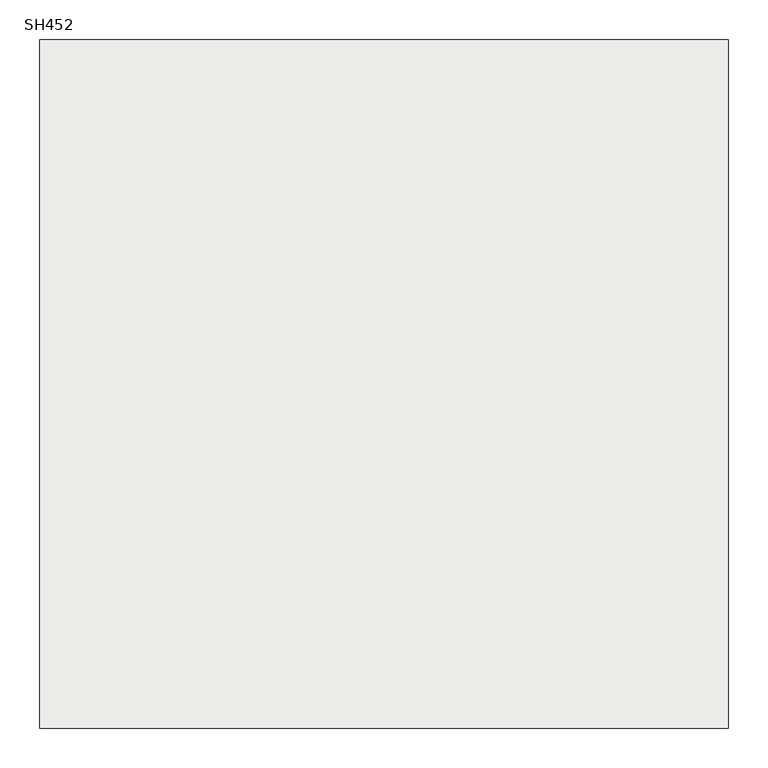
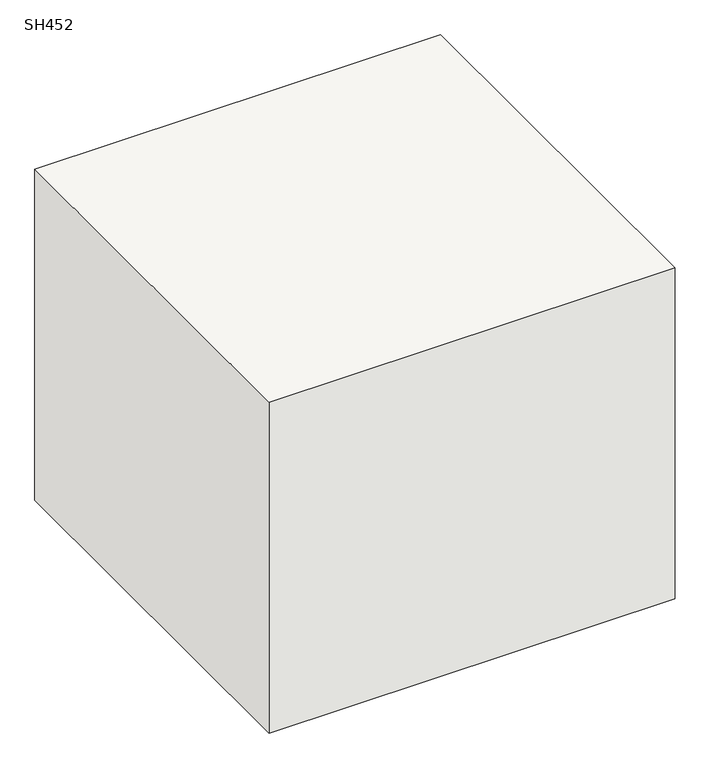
"""IFC4 building model written with IfcOpenShell, lengths in millimetres: slab geometry, 柱形_SH : SH452."""

import ifcopenshell
import ifcopenshell.guid

model = None  # the IFC model being written
_history = None  # IfcOwnerHistory: only IFC2X3 demands one
_inside = {}  # id of a spatial element -> (the spatial element, [elements in it])
_under = {}  # id of a project, library or spatial element -> (it, [spatial elements below it])
_declared = {}  # id of a project -> (the project, [libraries it declares])
_typed = {}  # id of a type object -> (the type object, [elements of that type])
_made_of = {}  # id of a material, layer set ... -> (it, [elements and type objects made of it])


def new_model(schema):
    """Start an empty IFC model of exactly this schema.

    Asked for "IFC4X3", IfcOpenShell would pick the latest addendum, in which some entities
    have other attributes; the version numbers below select the first issue.
    IFC2X3 requires an IfcOwnerHistory on every rooted entity: one is made here for all.
    """
    global model, _history
    if schema == "IFC4X3":
        model = ifcopenshell.file(schema_version=(4, 3, 0, 0))
    else:
        model = ifcopenshell.file(schema=schema)
    _inside.clear()
    _under.clear()
    _declared.clear()
    _typed.clear()
    _made_of.clear()
    _history = None
    if model.schema == "IFC2X3":
        org = make("IfcOrganization", Name="unknown")
        user = make(
            "IfcPersonAndOrganization",
            ThePerson=make("IfcPerson", FamilyName="unknown"),
            TheOrganization=org,
        )
        app = make(
            "IfcApplication",
            ApplicationDeveloper=org,
            Version="unknown",
            ApplicationFullName="unknown",
            ApplicationIdentifier="unknown",
        )
        _history = make(
            "IfcOwnerHistory",
            OwningUser=user,
            OwningApplication=app,
            ChangeAction="ADDED",
            CreationDate=0,
        )
    return model


def make(cls, **values):
    """One entity of the class cls with the attributes given. An attribute that is None is left unset."""
    return model.create_entity(
        cls, **{name: value for name, value in values.items() if value is not None}
    )


def rooted(cls, **values):
    """An entity with a GlobalId (a new one), such as an element, a storey or a relation."""
    return make(cls, GlobalId=ifcopenshell.guid.new(), OwnerHistory=_history, **values)


def si_unit(unit_type, name, prefix=None):
    """IfcSIUnit, for example si_unit("LENGTHUNIT", "METRE", prefix="MILLI")."""
    return make("IfcSIUnit", UnitType=unit_type, Prefix=prefix, Name=name)


def assignment(units):
    """IfcUnitAssignment: the units of a project."""
    return None if units is None else make("IfcUnitAssignment", Units=units)


def point(xyz):
    """IfcCartesianPoint."""
    return None if xyz is None else make("IfcCartesianPoint", Coordinates=xyz)


def direction(xyz):
    """IfcDirection."""
    return None if xyz is None else make("IfcDirection", DirectionRatios=xyz)


def frame(location, z_axis=None, x_axis=None):
    """IfcAxis2Placement3D, a coordinate frame: its origin and axes. An axis left out is left unset."""
    return make(
        "IfcAxis2Placement3D",
        Location=point(location),
        Axis=direction(z_axis),
        RefDirection=direction(x_axis),
    )


def origin():
    """The frame at (0, 0, 0) with its axes left unset."""
    return frame((0.0, 0.0, 0.0))


def place(relative_to, where):
    """IfcLocalPlacement: puts the frame where relative to a parent placement (None: the world)."""
    return make(
        "IfcLocalPlacement", PlacementRelTo=relative_to, RelativePlacement=where
    )


def context(
    kind, dimensions, precision=None, world=None, true_north=None, identifier=None
):
    """IfcGeometricRepresentationContext, for example the 3D "Model" context."""
    return make(
        "IfcGeometricRepresentationContext",
        ContextIdentifier=identifier,
        ContextType=kind,
        CoordinateSpaceDimension=dimensions,
        Precision=precision,
        WorldCoordinateSystem=world,
        TrueNorth=true_north,
    )


def project(units=None, contexts=None):
    """IfcProject with its units and contexts."""
    return rooted(
        "IfcProject",
        Name="project",
        RepresentationContexts=contexts,
        UnitsInContext=assignment(units),
    )


def spatial(cls, under=None, at=None, **own):
    """A site, building, storey or space (cls), placed at a placement, below another one or the project."""
    s = rooted(cls, ObjectPlacement=at, **own)
    if under is not None:
        _under.setdefault(under.id(), (under, []))[1].append(s)
    return s


def polyline(points):
    """IfcPolyline through the points."""
    return make("IfcPolyline", Points=[point(p) for p in points])


def outline(outer, holes=None, kind="AREA"):
    """IfcArbitraryClosedProfileDef: a profile drawn as a closed curve; with holes, ...WithVoids."""
    if holes is None:
        return make("IfcArbitraryClosedProfileDef", ProfileType=kind, OuterCurve=outer)
    return make(
        "IfcArbitraryProfileDefWithVoids",
        ProfileType=kind,
        OuterCurve=outer,
        InnerCurves=holes,
    )


def extrude(swept, where, along, depth):
    """IfcExtrudedAreaSolid: the profile swept, set in the frame where, extruded along a direction by depth."""
    return make(
        "IfcExtrudedAreaSolid",
        SweptArea=swept,
        Position=where,
        ExtrudedDirection=direction(along),
        Depth=depth,
    )


def shape(context_of_items, identifier, shape_type, items):
    """IfcShapeRepresentation: the items that make up one representation, for example the "Body"."""
    return make(
        "IfcShapeRepresentation",
        ContextOfItems=context_of_items,
        RepresentationIdentifier=identifier,
        RepresentationType=shape_type,
        Items=items,
    )


def source(mapping_origin, context_of_items, identifier, shape_type, items):
    """IfcRepresentationMap: a shape defined once, which mapped items show again and again."""
    return make(
        "IfcRepresentationMap",
        MappingOrigin=mapping_origin,
        MappedRepresentation=shape(context_of_items, identifier, shape_type, items),
    )


def transform(
    local_origin,
    x_axis=None,
    y_axis=None,
    z_axis=None,
    scale=None,
    scale2=None,
    scale3=None,
    uniform=True,
):
    """IfcCartesianTransformationOperator3D, or its non-uniform kind. x_axis, y_axis, z_axis: its Axis1, 2, 3."""
    if uniform:
        return make(
            "IfcCartesianTransformationOperator3D",
            Axis1=direction(x_axis),
            Axis2=direction(y_axis),
            LocalOrigin=point(local_origin),
            Scale=scale,
            Axis3=direction(z_axis),
        )
    return make(
        "IfcCartesianTransformationOperator3DnonUniform",
        Axis1=direction(x_axis),
        Axis2=direction(y_axis),
        LocalOrigin=point(local_origin),
        Scale=scale,
        Axis3=direction(z_axis),
        Scale2=scale2,
        Scale3=scale3,
    )


def mapped(mapping_source, mapping_target):
    """IfcMappedItem: shows the shape of a source again, moved by a transform."""
    return make(
        "IfcMappedItem", MappingSource=mapping_source, MappingTarget=mapping_target
    )


def made_of(thing, what):
    """Note that an element or type object is made of a material, layer set ...; save() writes the relation."""
    if what is not None:
        _made_of.setdefault(what.id(), (what, []))[1].append(thing)
    return thing


def element(
    cls,
    number,
    at=None,
    inside=None,
    cuts=None,
    type_object=None,
    material=None,
    context=None,
    identifier="Body",
    shape_type=None,
    held_by="IfcProductDefinitionShape",
    body=None,
    shapes=None,
    **own,
):
    """One element of the class cls, such as IfcWall. Its Tag is "e" and its number.

    at: its placement. inside: the storey or other place that contains it. cuts: it is an
    opening in that element (IfcRelVoidsElement). A single representation is given by context,
    identifier, shape_type and body (its items); several are given by shapes. held_by: the class
    of the entity that holds the representations. save() writes the other relations.
    """
    e = rooted(cls, Tag="e%d" % number, ObjectPlacement=at, **own)
    if body is not None:
        shapes = [shape(context, identifier, shape_type, body)]
    if shapes is not None:
        e.Representation = make(held_by, Representations=shapes)
    if inside is not None:
        _inside.setdefault(inside.id(), (inside, []))[1].append(e)
    if cuts is not None:
        rooted(
            "IfcRelVoidsElement", RelatingBuildingElement=cuts, RelatedOpeningElement=e
        )
    if type_object is not None:
        _typed.setdefault(type_object.id(), (type_object, []))[1].append(e)
    return made_of(e, material)


def aggregate(whole, parts):
    """IfcRelAggregates: a whole, such as a stair, and the parts it consists of."""
    return rooted("IfcRelAggregates", RelatingObject=whole, RelatedObjects=parts)


def save(model, path):
    """Write the relations noted so far, then the file.

    IfcRelAggregates (storeys below a building ...), IfcRelContainedInSpatialStructure (elements
    in a storey), IfcRelDefinesByType, IfcRelAssociatesMaterial and IfcRelDeclares: one each for
    every whole, place, type object, material and project.
    """
    for whole, parts in _under.values():
        aggregate(whole, parts)
    for where, things in _inside.values():
        rooted(
            "IfcRelContainedInSpatialStructure",
            RelatedElements=things,
            RelatingStructure=where,
        )
    for kind, things in _typed.values():
        rooted("IfcRelDefinesByType", RelatedObjects=things, RelatingType=kind)
    for what, things in _made_of.values():
        rooted("IfcRelAssociatesMaterial", RelatedObjects=things, RelatingMaterial=what)
    for by, libraries in _declared.values():
        rooted("IfcRelDeclares", RelatingContext=by, RelatedDefinitions=libraries)
    model.write(path)


def sh452_b81ecc12(model_context):
    return source(origin(), model_context, "Body", "SweptSolid", [
        extrude(outline(polyline([(435.0, 435.0), (435.0, -435.0), (-435.0, -435.0), (-435.0, 435.0), (435.0, 435.0)])), frame((0.0, 0.0, -750.0), z_axis=(0.0, 0.0, 1.0), x_axis=(1.0, 0.0, 0.0)), (0.0, 0.0, 1.0), 750.0),
    ])


if __name__ == "__main__":
    model = new_model("IFC4")
    model_context = context("Model", 3, world=origin())
    ifc_project = project(units=[si_unit("LENGTHUNIT", "METRE", prefix="MILLI")], contexts=[model_context])
    site = spatial("IfcSite", under=ifc_project)
    building = spatial("IfcBuilding", under=site)
    placement = place(None, origin())
    sh452_shape = sh452_b81ecc12(model_context)
    element("IfcSlab", 1, ObjectType="柱形_SH : SH452", at=placement, inside=building, context=model_context, shape_type="MappedRepresentation", body=[
        mapped(sh452_shape, transform((0.0, 0.0, 0.0), x_axis=(1.0, 0.0, 0.0), y_axis=(0.0, 1.0, 0.0), z_axis=(0.0, 0.0, 1.0))),
    ])
    save(model, "model.ifc")
